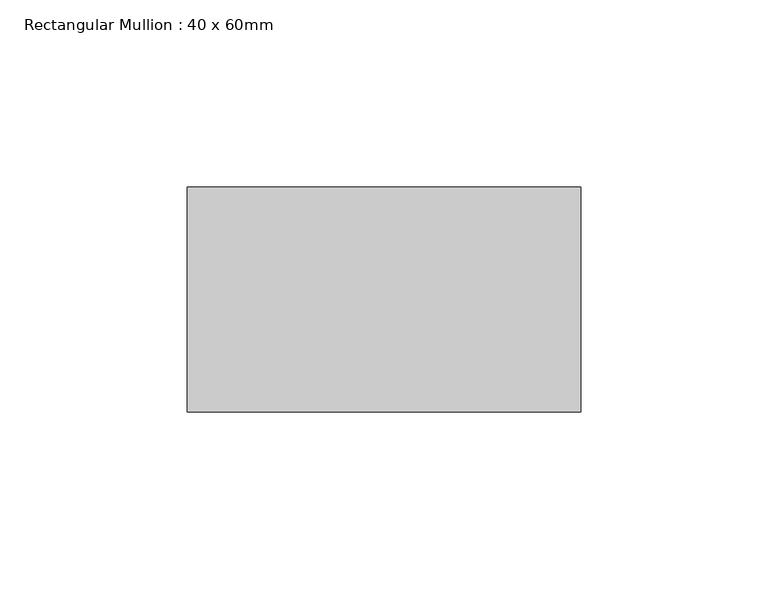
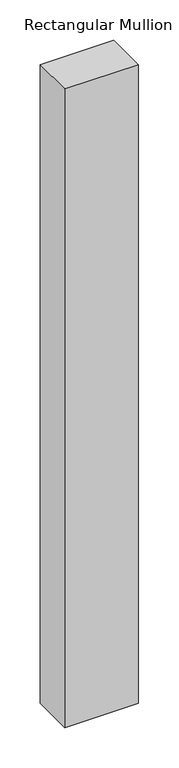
"""IFC4 building model written with IfcOpenShell, lengths in millimetres: member geometry, Rectangular Mullion : 40 x 60mm."""

from ifc_helpers import new_model, si_unit, frame, origin, place, context, project, spatial, polyline, outline, extrude, source, transform, mapped, element, save


def rectangular_mullion_40_x_60mm_f997b83b(model_context):
    return source(origin(), model_context, "Body", "SweptSolid", [
        extrude(outline(polyline([(80.0, -10.0), (80.0, -70.0), (-25.0, -70.0), (-25.0, -10.0), (80.0, -10.0)])), frame((0.0, 0.0, -964.3122814), z_axis=(0.0, 0.0, 1.0), x_axis=(1.0, 0.0, 0.0)), (0.0, 0.0, 1.0), 964.3122814),
    ])


if __name__ == "__main__":
    model = new_model("IFC4")
    model_context = context("Model", 3, world=origin())
    ifc_project = project(units=[si_unit("LENGTHUNIT", "METRE", prefix="MILLI")], contexts=[model_context])
    site = spatial("IfcSite", under=ifc_project)
    building = spatial("IfcBuilding", under=site)
    placement = place(None, origin())
    rectangular_mullion_40_x_60mm_shape = rectangular_mullion_40_x_60mm_f997b83b(model_context)
    element("IfcMember", 1, ObjectType="Rectangular Mullion : 40 x 60mm", at=placement, inside=building, context=model_context, shape_type="MappedRepresentation", body=[
        mapped(rectangular_mullion_40_x_60mm_shape, transform((0.0, 0.0, 0.0), x_axis=(1.0, 0.0, 0.0), y_axis=(0.0, 1.0, 0.0), z_axis=(0.0, 0.0, 1.0))),
    ])
    save(model, "model.ifc")
